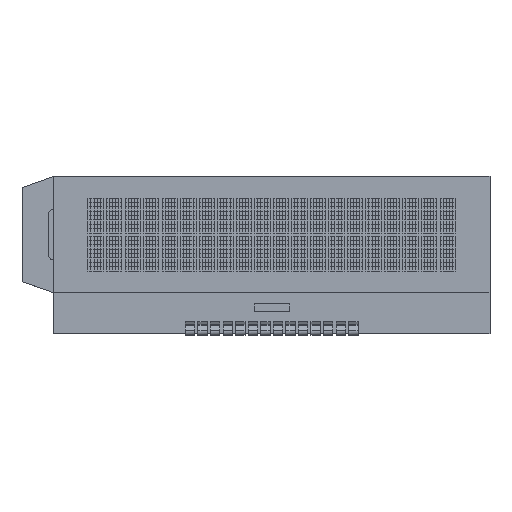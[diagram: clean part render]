
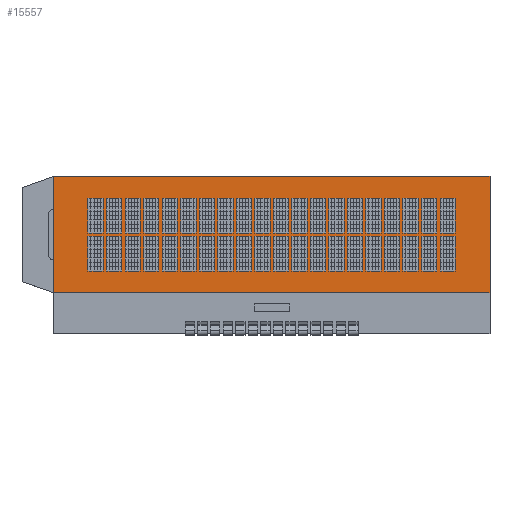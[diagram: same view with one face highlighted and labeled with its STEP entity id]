
A CAD part, top view. The second image highlights one B-rep face of the part: STEP entity #15557.
In plain terms, the highlighted free-form (B-spline) face has degree [1, 1] with [2, 2] control points.
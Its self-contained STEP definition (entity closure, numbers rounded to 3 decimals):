
#808 = CARTESIAN_POINT ( 'NONE',  ( 604.954, 341.454, 2.5 ) ) ;
#3586 = CARTESIAN_POINT ( 'NONE',  ( 535.454, 359.954, 2.5 ) ) ;
#9001 = B_SPLINE_CURVE_WITH_KNOTS ( 'NONE', 1,
 ( #3586, #28328 ),
 .UNSPECIFIED., .F., .F.,
 ( 2, 2 ),
 ( 0., 1. ),
 .UNSPECIFIED. ) ;
#9013 = CARTESIAN_POINT ( 'NONE',  ( 535.454, 359.954, 2.5 ) ) ;
#9027 = VERTEX_POINT ( 'NONE', #14109 ) ;
#9750 = CARTESIAN_POINT ( 'NONE',  ( 604.954, 341.454, 2.5 ) ) ;
#10271 = VERTEX_POINT ( 'NONE', #35022 ) ;
#11175 = EDGE_CURVE ( 'NONE', #9027, #10271, #9001, .T. ) ;
#12331 = FACE_OUTER_BOUND ( 'NONE', #34949, .T. ) ;
#13198 = CARTESIAN_POINT ( 'NONE',  ( 604.954, 359.954, 2.5 ) ) ;
#14109 = CARTESIAN_POINT ( 'NONE',  ( 535.454, 359.954, 2.5 ) ) ;
#15557 = ADVANCED_FACE ( 'NONE', ( #12331 ), #27579, .T. ) ;
#17166 = CARTESIAN_POINT ( 'NONE',  ( 535.454, 341.454, 2.5 ) ) ;
#17350 = CARTESIAN_POINT ( 'NONE',  ( 604.954, 359.954, 2.5 ) ) ;
#18766 = VERTEX_POINT ( 'NONE', #9750 ) ;
#20867 = B_SPLINE_CURVE_WITH_KNOTS ( 'NONE', 1,
 ( #42133, #42302 ),
 .UNSPECIFIED., .F., .F.,
 ( 2, 2 ),
 ( 0., 1. ),
 .UNSPECIFIED. ) ;
#22080 = ORIENTED_EDGE ( 'NONE', *, *, #11175, .T. ) ;
#23514 = CARTESIAN_POINT ( 'NONE',  ( 535.454, 359.954, 2.5 ) ) ;
#24128 = VERTEX_POINT ( 'NONE', #51855 ) ;
#25065 = B_SPLINE_CURVE_WITH_KNOTS ( 'NONE', 1,
 ( #52294, #23514 ),
 .UNSPECIFIED., .F., .F.,
 ( 2, 2 ),
 ( 0., 1. ),
 .UNSPECIFIED. ) ;
#27579 = B_SPLINE_SURFACE_WITH_KNOTS ( 'NONE', 1, 1, ( 
 ( #17166, #9013 ),
 ( #41951, #17350 ) ),
 .UNSPECIFIED., .F., .F., .F.,
 ( 2, 2 ),
 ( 2, 2 ),
 ( 0., 1. ),
 ( 0., 1. ),
 .UNSPECIFIED. ) ;
#28289 = EDGE_CURVE ( 'NONE', #18766, #24128, #41752, .T. ) ;
#28328 = CARTESIAN_POINT ( 'NONE',  ( 535.454, 341.454, 2.5 ) ) ;
#34949 = EDGE_LOOP ( 'NONE', ( #22080, #51928, #52996, #35750 ) ) ;
#35022 = CARTESIAN_POINT ( 'NONE',  ( 535.454, 341.454, 2.5 ) ) ;
#35750 = ORIENTED_EDGE ( 'NONE', *, *, #46993, .T. ) ;
#35888 = EDGE_CURVE ( 'NONE', #10271, #18766, #20867, .T. ) ;
#41752 = B_SPLINE_CURVE_WITH_KNOTS ( 'NONE', 1,
 ( #808, #13198 ),
 .UNSPECIFIED., .F., .F.,
 ( 2, 2 ),
 ( 0., 1. ),
 .UNSPECIFIED. ) ;
#41951 = CARTESIAN_POINT ( 'NONE',  ( 604.954, 341.454, 2.5 ) ) ;
#42133 = CARTESIAN_POINT ( 'NONE',  ( 535.454, 341.454, 2.5 ) ) ;
#42302 = CARTESIAN_POINT ( 'NONE',  ( 604.954, 341.454, 2.5 ) ) ;
#46993 = EDGE_CURVE ( 'NONE', #24128, #9027, #25065, .T. ) ;
#51855 = CARTESIAN_POINT ( 'NONE',  ( 604.954, 359.954, 2.5 ) ) ;
#51928 = ORIENTED_EDGE ( 'NONE', *, *, #35888, .T. ) ;
#52294 = CARTESIAN_POINT ( 'NONE',  ( 604.954, 359.954, 2.5 ) ) ;
#52996 = ORIENTED_EDGE ( 'NONE', *, *, #28289, .T. ) ;
